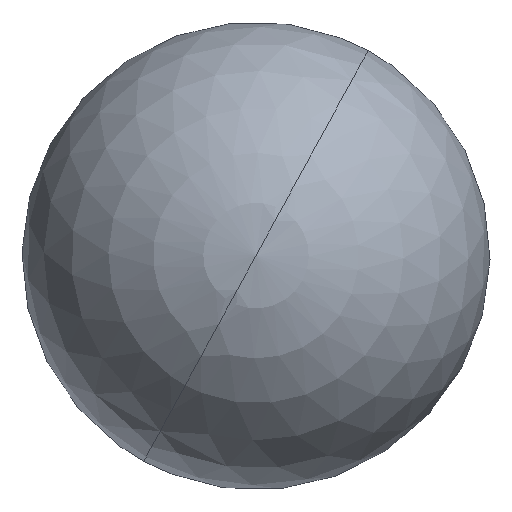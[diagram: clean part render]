
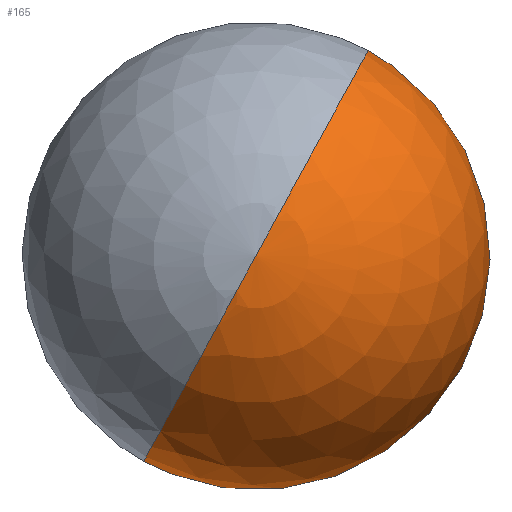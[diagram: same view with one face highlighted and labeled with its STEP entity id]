
A CAD part, top view. The second image highlights one B-rep face of the part: STEP entity #165.
In plain terms, the highlighted spherical face has radius 10 mm.
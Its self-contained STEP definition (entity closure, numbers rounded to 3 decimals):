
#85=CARTESIAN_POINT('Vertex',(4.,0.,-9.165)) ;
#99=CARTESIAN_POINT('Vertex',(1.918,3.51,-9.165)) ;
#102=CARTESIAN_POINT('Axis2P3D Location',(0.,0.,-9.165)) ;
#115=CARTESIAN_POINT('Axis2P3D Location',(0.,0.,-9.165)) ;
#119=CARTESIAN_POINT('Vertex',(-1.918,-3.51,-9.165)) ;
#135=CARTESIAN_POINT('Axis2P3D Location',(0.,0.,0.)) ;
#140=CARTESIAN_POINT('Axis2P3D Location',(0.,0.,0.)) ;
#144=CARTESIAN_POINT('Vertex',(0.,0.,10.)) ;
#147=CARTESIAN_POINT('Axis2P3D Location',(0.,0.,0.)) ;
#103=DIRECTION('Axis2P3D Direction',(0.,0.,1.)) ;
#116=DIRECTION('Axis2P3D Direction',(0.,0.,1.)) ;
#136=DIRECTION('Axis2P3D Direction',(0.,0.,-1.)) ;
#137=DIRECTION('Axis2P3D XDirection',(0.479,0.878,0.)) ;
#141=DIRECTION('Axis2P3D Direction',(0.878,-0.479,0.)) ;
#148=DIRECTION('Axis2P3D Direction',(-0.878,0.479,0.)) ;
#104=AXIS2_PLACEMENT_3D('Circle Axis2P3D',#102,#103,$) ;
#117=AXIS2_PLACEMENT_3D('Circle Axis2P3D',#115,#116,$) ;
#138=AXIS2_PLACEMENT_3D('Sphere Axis2P3D',#135,#136,#137) ;
#142=AXIS2_PLACEMENT_3D('Circle Axis2P3D',#140,#141,$) ;
#149=AXIS2_PLACEMENT_3D('Circle Axis2P3D',#147,#148,$) ;
#160=ORIENTED_EDGE('',*,*,#151,.T.) ;
#161=ORIENTED_EDGE('',*,*,#146,.F.) ;
#162=ORIENTED_EDGE('',*,*,#121,.T.) ;
#163=ORIENTED_EDGE('',*,*,#106,.F.) ;
#165=ADVANCED_FACE('PartBody',(#164),#139,.T.) ;
#105=CIRCLE('generated circle',#104,4.) ;
#118=CIRCLE('generated circle',#117,4.) ;
#143=CIRCLE('generated circle',#142,10.) ;
#150=CIRCLE('generated circle',#149,10.) ;
#106=EDGE_CURVE('',#100,#86,#105,.F.) ;
#121=EDGE_CURVE('',#120,#86,#118,.T.) ;
#146=EDGE_CURVE('',#120,#145,#143,.F.) ;
#151=EDGE_CURVE('',#100,#145,#150,.F.) ;
#159=EDGE_LOOP('',(#160,#161,#162,#163)) ;
#164=FACE_OUTER_BOUND('',#159,.T.) ;
#139=SPHERICAL_SURFACE('',#138,10.) ;
#86=VERTEX_POINT('',#85) ;
#100=VERTEX_POINT('',#99) ;
#120=VERTEX_POINT('',#119) ;
#145=VERTEX_POINT('',#144) ;
